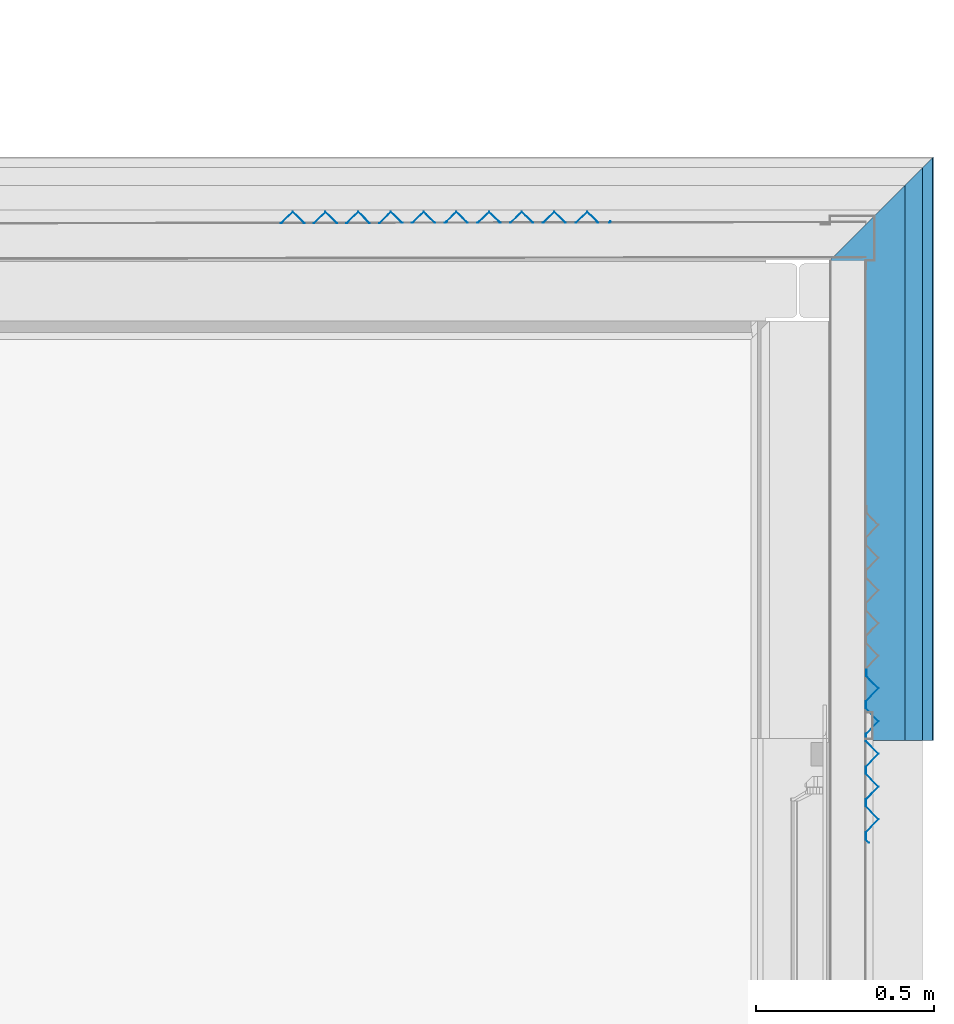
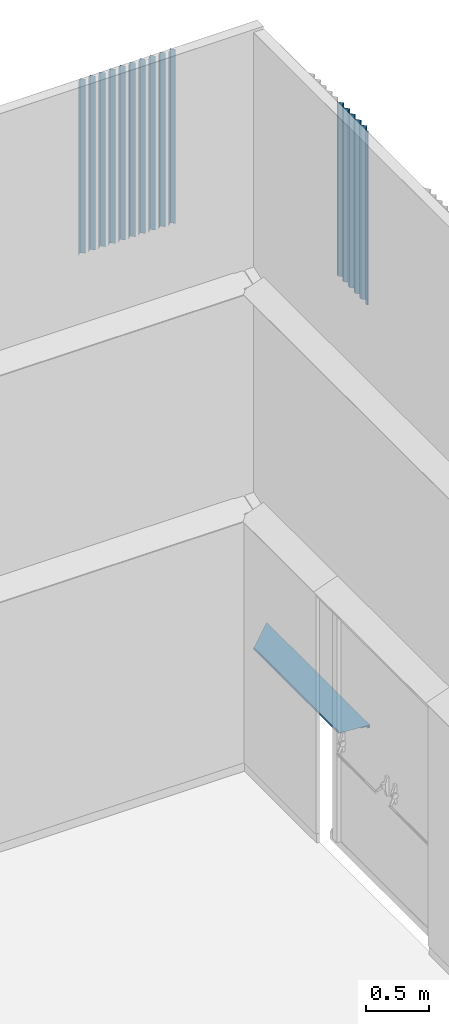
# One storey, part 112 of 338: 5 building element parts, 3 elements without a shape of their own.
"""IFC2X3 building model written with IfcOpenShell, lengths in millimetres."""

import ifcopenshell
import ifcopenshell.guid

model = None  # the IFC model being written
_history = None  # IfcOwnerHistory: only IFC2X3 demands one
_inside = {}  # id of a spatial element -> (the spatial element, [elements in it])
_under = {}  # id of a project, library or spatial element -> (it, [spatial elements below it])
_declared = {}  # id of a project -> (the project, [libraries it declares])
_typed = {}  # id of a type object -> (the type object, [elements of that type])
_made_of = {}  # id of a material, layer set ... -> (it, [elements and type objects made of it])


def new_model(schema):
    """Start an empty IFC model of exactly this schema.

    Asked for "IFC4X3", IfcOpenShell would pick the latest addendum, in which some entities
    have other attributes; the version numbers below select the first issue.
    IFC2X3 requires an IfcOwnerHistory on every rooted entity: one is made here for all.
    """
    global model, _history
    if schema == "IFC4X3":
        model = ifcopenshell.file(schema_version=(4, 3, 0, 0))
    else:
        model = ifcopenshell.file(schema=schema)
    _inside.clear()
    _under.clear()
    _declared.clear()
    _typed.clear()
    _made_of.clear()
    _history = None
    if model.schema == "IFC2X3":
        org = make("IfcOrganization", Name="unknown")
        user = make(
            "IfcPersonAndOrganization",
            ThePerson=make("IfcPerson", FamilyName="unknown"),
            TheOrganization=org,
        )
        app = make(
            "IfcApplication",
            ApplicationDeveloper=org,
            Version="unknown",
            ApplicationFullName="unknown",
            ApplicationIdentifier="unknown",
        )
        _history = make(
            "IfcOwnerHistory",
            OwningUser=user,
            OwningApplication=app,
            ChangeAction="ADDED",
            CreationDate=0,
        )
    return model


def make(cls, **values):
    """One entity of the class cls with the attributes given. An attribute that is None is left unset."""
    return model.create_entity(
        cls, **{name: value for name, value in values.items() if value is not None}
    )


def entity(cls, *values):
    """Any entity or typed value of the class cls, its attributes in the order of the schema. None: left unset."""
    e = model.create_entity(cls)
    for i, value in enumerate(values):
        if value is not None:
            e[i] = value
    return e


def rooted(cls, **values):
    """An entity with a GlobalId (a new one), such as an element, a storey or a relation."""
    return make(cls, GlobalId=ifcopenshell.guid.new(), OwnerHistory=_history, **values)


def si_unit(unit_type, name, prefix=None):
    """IfcSIUnit, for example si_unit("LENGTHUNIT", "METRE", prefix="MILLI")."""
    return make("IfcSIUnit", UnitType=unit_type, Prefix=prefix, Name=name)


def converted_unit(unit_type, name, factor, base, dimensions=None, offset=None):
    """IfcConversionBasedUnit, such as the inch: factor (a typed value) times the base unit."""
    return make(
        "IfcConversionBasedUnit"
        if offset is None
        else "IfcConversionBasedUnitWithOffset",
        ConversionOffset=offset,
        Dimensions=None
        if dimensions is None
        else entity("IfcDimensionalExponents", *dimensions),
        UnitType=unit_type,
        Name=name,
        ConversionFactor=make(
            "IfcMeasureWithUnit", ValueComponent=factor, UnitComponent=base
        ),
    )


def derived_unit(unit_type, elements):
    """IfcDerivedUnit: a product of units, each with its exponent."""
    return make(
        "IfcDerivedUnit",
        Elements=[
            make("IfcDerivedUnitElement", Unit=unit, Exponent=power)
            for unit, power in elements
        ],
        UnitType=unit_type,
    )


def money_unit(currency):
    """IfcMonetaryUnit."""
    return make("IfcMonetaryUnit", Currency=currency)


def assignment(units):
    """IfcUnitAssignment: the units of a project."""
    return None if units is None else make("IfcUnitAssignment", Units=units)


def point(xyz):
    """IfcCartesianPoint."""
    return None if xyz is None else make("IfcCartesianPoint", Coordinates=xyz)


def direction(xyz):
    """IfcDirection."""
    return None if xyz is None else make("IfcDirection", DirectionRatios=xyz)


def frame(location, z_axis=None, x_axis=None):
    """IfcAxis2Placement3D, a coordinate frame: its origin and axes. An axis left out is left unset."""
    return make(
        "IfcAxis2Placement3D",
        Location=point(location),
        Axis=direction(z_axis),
        RefDirection=direction(x_axis),
    )


def origin_with_axes():
    """The frame at (0, 0, 0) with the z axis (0, 0, 1) and the x axis (1, 0, 0) written out."""
    return frame((0.0, 0.0, 0.0), z_axis=(0.0, 0.0, 1.0), x_axis=(1.0, 0.0, 0.0))


def place(relative_to, where):
    """IfcLocalPlacement: puts the frame where relative to a parent placement (None: the world)."""
    return make(
        "IfcLocalPlacement", PlacementRelTo=relative_to, RelativePlacement=where
    )


def context(
    kind, dimensions, precision=None, world=None, true_north=None, identifier=None
):
    """IfcGeometricRepresentationContext, for example the 3D "Model" context."""
    return make(
        "IfcGeometricRepresentationContext",
        ContextIdentifier=identifier,
        ContextType=kind,
        CoordinateSpaceDimension=dimensions,
        Precision=precision,
        WorldCoordinateSystem=world,
        TrueNorth=true_north,
    )


def subcontext(parent, identifier, kind, view, scale=None):
    """IfcGeometricRepresentationSubContext, for example "Body" below "Model"."""
    return make(
        "IfcGeometricRepresentationSubContext",
        ContextIdentifier=identifier,
        ContextType=kind,
        ParentContext=parent,
        TargetScale=scale,
        TargetView=view,
    )


def project(units=None, contexts=None):
    """IfcProject with its units and contexts."""
    return rooted(
        "IfcProject",
        Name="project",
        RepresentationContexts=contexts,
        UnitsInContext=assignment(units),
    )


def spatial(cls, under=None, at=None, **own):
    """A site, building, storey or space (cls), placed at a placement, below another one or the project."""
    s = rooted(cls, ObjectPlacement=at, **own)
    if under is not None:
        _under.setdefault(under.id(), (under, []))[1].append(s)
    return s


def faces_of(points, faces, orient=None, outer=None):
    """IfcFace entities. A face is a list of loops; a loop is a list of indices into points, from 0.

    orient and outer hold one flag for each loop. By default every Orientation is true, the
    first loop of a face is its IfcFaceOuterBound and the others are IfcFaceBound.
    """
    made = []
    for i, loops in enumerate(faces):
        bounds = []
        for j, loop in enumerate(loops):
            is_outer = j == 0 if outer is None else outer[i][j]
            bounds.append(
                make(
                    "IfcFaceOuterBound" if is_outer else "IfcFaceBound",
                    Bound=make("IfcPolyLoop", Polygon=[points[k] for k in loop]),
                    Orientation=True if orient is None else orient[i][j],
                )
            )
        made.append(make("IfcFace", Bounds=bounds))
    return made


def faceted_brep(points, faces, orient=None, outer=None, voids=None):
    """IfcFacetedBrep: a solid bounded by flat faces; with voids (closed shells), ...WithVoids."""
    shared = [point(p) for p in points]
    hull = make("IfcClosedShell", CfsFaces=faces_of(shared, faces, orient, outer))
    if voids is None:
        return make("IfcFacetedBrep", Outer=hull)
    return make(
        "IfcFacetedBrepWithVoids",
        Outer=hull,
        Voids=[
            make(cls, CfsFaces=faces_of(shared, fs, o, b)) for cls, fs, o, b in voids
        ],
    )


def shape(context_of_items, identifier, shape_type, items):
    """IfcShapeRepresentation: the items that make up one representation, for example the "Body"."""
    return make(
        "IfcShapeRepresentation",
        ContextOfItems=context_of_items,
        RepresentationIdentifier=identifier,
        RepresentationType=shape_type,
        Items=items,
    )


def material(Name=None, Category=None):
    """IfcMaterial."""
    return make("IfcMaterial", Name=Name, Category=Category)


def made_of(thing, what):
    """Note that an element or type object is made of a material, layer set ...; save() writes the relation."""
    if what is not None:
        _made_of.setdefault(what.id(), (what, []))[1].append(thing)
    return thing


def type_object(cls, material=None, **own):
    """A type object (cls), such as IfcWallType, which elements share."""
    return made_of(rooted(cls, **own), material)


def element(
    cls,
    number,
    at=None,
    inside=None,
    cuts=None,
    type_object=None,
    material=None,
    context=None,
    identifier="Body",
    shape_type=None,
    held_by="IfcProductDefinitionShape",
    body=None,
    shapes=None,
    **own,
):
    """One element of the class cls, such as IfcWall. Its Tag is "e" and its number.

    at: its placement. inside: the storey or other place that contains it. cuts: it is an
    opening in that element (IfcRelVoidsElement). A single representation is given by context,
    identifier, shape_type and body (its items); several are given by shapes. held_by: the class
    of the entity that holds the representations. save() writes the other relations.
    """
    e = rooted(cls, Tag="e%d" % number, ObjectPlacement=at, **own)
    if body is not None:
        shapes = [shape(context, identifier, shape_type, body)]
    if shapes is not None:
        e.Representation = make(held_by, Representations=shapes)
    if inside is not None:
        _inside.setdefault(inside.id(), (inside, []))[1].append(e)
    if cuts is not None:
        rooted(
            "IfcRelVoidsElement", RelatingBuildingElement=cuts, RelatedOpeningElement=e
        )
    if type_object is not None:
        _typed.setdefault(type_object.id(), (type_object, []))[1].append(e)
    return made_of(e, material)


def aggregate(whole, parts):
    """IfcRelAggregates: a whole, such as a stair, and the parts it consists of."""
    return rooted("IfcRelAggregates", RelatingObject=whole, RelatedObjects=parts)


def save(model, path):
    """Write the relations noted so far, then the file.

    IfcRelAggregates (storeys below a building ...), IfcRelContainedInSpatialStructure (elements
    in a storey), IfcRelDefinesByType, IfcRelAssociatesMaterial and IfcRelDeclares: one each for
    every whole, place, type object, material and project.
    """
    for whole, parts in _under.values():
        aggregate(whole, parts)
    for where, things in _inside.values():
        rooted(
            "IfcRelContainedInSpatialStructure",
            RelatedElements=things,
            RelatingStructure=where,
        )
    for kind, things in _typed.values():
        rooted("IfcRelDefinesByType", RelatedObjects=things, RelatingType=kind)
    for what, things in _made_of.values():
        rooted("IfcRelAssociatesMaterial", RelatedObjects=things, RelatingMaterial=what)
    for by, libraries in _declared.values():
        rooted("IfcRelDeclares", RelatingContext=by, RelatedDefinitions=libraries)
    model.write(path)


model = new_model("IFC2X3")

# Units and contexts
model_context = context("Model", 3, precision=0.01, world=origin_with_axes(), true_north=direction((0.0, 1.0)))
plan_context = context("Plan", 3, precision=0.01, world=origin_with_axes(), true_north=direction((0.0, 1.0)))
body_context = subcontext(model_context, "Body", "Model", "MODEL_VIEW")
ifc_project = project(units=[si_unit("LENGTHUNIT", "METRE", prefix="MILLI"), si_unit("AREAUNIT", "SQUARE_METRE"), si_unit("VOLUMEUNIT", "CUBIC_METRE"), converted_unit("PLANEANGLEUNIT", "DEGREE", entity("IfcPlaneAngleMeasure", 0.0174532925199), si_unit("PLANEANGLEUNIT", "RADIAN"), dimensions=[0, 0, 0, 0, 0, 0, 0]), money_unit("EUR"), converted_unit("TIMEUNIT", "Year", entity("IfcTimeMeasure", 31556926.0), si_unit("TIMEUNIT", "SECOND"), dimensions=[0, 0, 1, 0, 0, 0, 0]), si_unit("MASSUNIT", "GRAM", prefix="KILO"), si_unit("THERMODYNAMICTEMPERATUREUNIT", "DEGREE_CELSIUS"), si_unit("LUMINOUSINTENSITYUNIT", "LUMEN"), si_unit("ENERGYUNIT", "JOULE", prefix="MEGA"), derived_unit("THERMALCONDUCTANCEUNIT", [(si_unit("POWERUNIT", "WATT"), 1), (si_unit("LENGTHUNIT", "METRE"), -1), (si_unit("THERMODYNAMICTEMPERATUREUNIT", "KELVIN"), -1)]), derived_unit("SPECIFICHEATCAPACITYUNIT", [(si_unit("ENERGYUNIT", "JOULE"), 1), (si_unit("MASSUNIT", "GRAM", prefix="KILO"), -1), (si_unit("THERMODYNAMICTEMPERATUREUNIT", "KELVIN"), -1)]), derived_unit("MASSDENSITYUNIT", [(si_unit("MASSUNIT", "GRAM", prefix="KILO"), 1), (si_unit("VOLUMEUNIT", "CUBIC_METRE"), -1)])], contexts=[model_context, plan_context])

# Site, building, storey
site_placement = place(None, origin_with_axes())
site = spatial("IfcSite", under=ifc_project, at=site_placement, Name="Fortuinstraat Woensdrecht", CompositionType="ELEMENT")
building_placement = place(site_placement, origin_with_axes())
building = spatial("IfcBuilding", under=site, at=building_placement, Name="IKC Fortuna", CompositionType="ELEMENT")
storey_placement = place(building_placement, origin_with_axes())
storey = spatial("IfcBuildingStorey", under=building, at=storey_placement, Name="00 begane grond", CompositionType="ELEMENT", Elevation=0.0)

# Beam, building element parts
beam_type = type_object("IfcBeamType", Name="41 Waterslag SW - MW 290 x 65", PredefinedType="BEAM")
beam_placement = place(storey_placement, frame((59433.4308144, 35496.2966283, 1018.9295501), z_axis=(0.0, 0.0, 1.0), x_axis=(-1.0, 0.0, 0.0)))
beam = element("IfcBeam", 1, at=beam_placement, inside=storey, type_object=beam_type, Name="28_Balk_UNP203", ObjectType="BEAM")
ifc_material = material(Name="Metaal - Aluminium")
building_element_part_1_placement = place(beam_placement, origin_with_axes())
building_element_part_1 = element("IfcBuildingElementPart", 2, at=building_element_part_1_placement, material=ifc_material, Name="Metaal - Aluminium", context=body_context, shape_type="Brep", body=[
    faceted_brep([(0.0, 0.0, -0.00320269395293), (0.00375728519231, 0.00375728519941, -21.1201540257), (0.00375728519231, 1350.98396266, -21.1201540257), (0.0, 1350.98396266, -0.00320269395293), (-288.997373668, -288.997373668, -64.0514212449), (-289.001821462, -289.001821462, -39.0540858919), (-0.999999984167, -0.999999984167, -0.0033806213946), (-0.996409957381, -0.996409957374, -20.1802948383), (-290.001988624, -290.001988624, -38.1142266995), (-289.997195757, -289.997195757, -65.0514212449), (-269.997199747, -269.997199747, -65.0443041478), (-269.997377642, -269.997377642, -64.0444820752), (-289.001821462, 1350.98396266, -39.0540858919), (-0.996409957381, 1350.98396266, -20.1802948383), (-0.999999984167, 1350.98396266, -0.0033806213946), (-288.997373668, 1350.98396266, -64.0514212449), (-269.997377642, 1350.98396266, -64.0444820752), (-269.997199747, 1350.98396266, -65.0443041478), (-289.997195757, 1350.98396266, -65.0514212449), (-290.001988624, 1350.98396266, -38.1142266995)], [[[0, 1, 2, 3]], [[4, 5, 1, 0, 6, 7, 8, 9, 10, 11]], [[5, 12, 2, 1]], [[13, 14, 3, 2, 12, 15, 16, 17, 18, 19]], [[14, 6, 0, 3]], [[5, 4, 15, 12]], [[7, 6, 14, 13]], [[8, 7, 13, 19]], [[9, 8, 19, 18]], [[9, 18, 17, 10]], [[11, 10, 17, 16]], [[4, 11, 16, 15]]]),
])
building_element_part_2_placement = place(beam_placement, origin_with_axes())
building_element_part_2 = element("IfcBuildingElementPart", 3, at=building_element_part_2_placement, material=ifc_material, Name="Metaal - Aluminium", context=body_context, shape_type="Brep", body=[
    faceted_brep([(-287.321068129, 1350.98396266, -62.942550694), (-259.995211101, 1350.98396266, -44.989324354), (-259.995211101, -259.995211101, -44.989324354), (-287.321068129, -287.321068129, -62.942550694), (-287.870165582, 1350.98396266, -62.1067923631), (-260.294323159, 1350.98396266, -43.989324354), (-209.995211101, 1350.98396266, -43.989324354), (-209.995211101, 1350.98396266, -44.989324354), (-209.995211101, -209.995211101, -44.989324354), (-209.995211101, -209.995211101, -43.989324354), (-260.294323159, -260.294323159, -43.989324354), (-287.870165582, -287.870165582, -62.1067923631)], [[[0, 1, 2, 3]], [[0, 4, 5, 6, 7, 1]], [[1, 7, 8, 2]], [[3, 2, 8, 9, 10, 11]], [[4, 0, 3, 11]], [[5, 4, 11, 10]], [[6, 5, 10, 9]], [[7, 6, 9, 8]]]),
])
aggregate(beam, [building_element_part_1, building_element_part_2])

# Proxy, building element parts
building_element_proxy_type = type_object("IfcBuildingElementProxyType", Name="21 Sandwich custom pyramid 946 x 37", PredefinedType="NOTDEFINED")
proxy_1_placement = place(storey_placement, frame((57869.6588228, 35596.2971073, 5289.99999237), z_axis=(0.0, 0.0, 1.0), x_axis=(1.0, 0.0, 0.0)))
proxy_1 = element("IfcBuildingElementProxy", 4, at=proxy_1_placement, inside=storey, type_object=building_element_proxy_type, Name="41_Generieke bekleding & afwerking buiten_sandwich custom pyramid")
building_element_part_3_placement = place(proxy_1_placement, origin_with_axes())
building_element_part_3 = element("IfcBuildingElementPart", 5, at=building_element_part_3_placement, material=ifc_material, Name="Metaal - Aluminium", context=body_context, shape_type="Brep", body=[
    faceted_brep([(83.5202122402, 4.35534788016, 1690.00000566), (85.239076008, 4.3578946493, 1690.00000566), (52.0000026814, 36.6736482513, 1690.00000566), (18.6594701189, 4.25924640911, 1690.00000566), (20.3835680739, 4.26180093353, 1690.00000566), (52.0000026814, 35.0000001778, 1690.00000566), (85.239076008, 4.3578946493, 0.0), (83.5202122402, 4.35534788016, 0.0), (52.0000026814, 36.6736482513, 0.0), (18.6594701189, 4.25924640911, 0.0), (20.3835680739, 4.26180093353, 0.0), (52.0000026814, 35.0000001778, 0.0)], [[[0, 1, 2, 3, 4, 5]], [[6, 1, 0, 7]], [[1, 6, 8, 2]], [[9, 3, 2, 8]], [[10, 4, 3, 9]], [[4, 10, 11, 5]], [[7, 0, 5, 11]], [[6, 7, 11, 10, 9, 8]]]),
    faceted_brep([(175.380223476, 4.49145304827, 1690.00000566), (177.099074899, 4.49399979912, 1690.00000566), (143.999995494, 36.6736482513, 1690.00000566), (110.799889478, 4.3957670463, 1690.00000566), (112.523987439, 4.39832157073, 1690.00000566), (143.999995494, 35.0000001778, 1690.00000566), (177.099074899, 4.49399979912, 0.0), (175.380223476, 4.49145304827, 0.0), (143.999995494, 36.6736482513, 0.0), (110.799889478, 4.3957670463, 0.0), (112.523987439, 4.39832157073, 0.0), (143.999995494, 35.0000001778, 0.0)], [[[0, 1, 2, 3, 4, 5]], [[6, 1, 0, 7]], [[1, 6, 8, 2]], [[9, 3, 2, 8]], [[10, 4, 3, 9]], [[4, 10, 11, 5]], [[7, 0, 5, 11]], [[6, 7, 11, 10, 9, 8]]]),
    faceted_brep([(267.240224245, 4.62755820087, 1690.00000566), (268.95908787, 4.6301049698, 1690.00000566), (236.000002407, 36.6736482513, 1690.00000566), (202.940304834, 4.53228767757, 1690.00000566), (204.664403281, 4.53484220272, 1690.00000566), (236.000002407, 35.0000001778, 1690.00000566), (268.95908787, 4.6301049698, 0.0), (267.240224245, 4.62755820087, 0.0), (236.000002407, 36.6736482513, 0.0), (202.940304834, 4.53228767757, 0.0), (204.664403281, 4.53484220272, 0.0), (236.000002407, 35.0000001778, 0.0)], [[[0, 1, 2, 3, 4, 5]], [[6, 1, 0, 7]], [[1, 6, 8, 2]], [[9, 3, 2, 8]], [[10, 4, 3, 9]], [[4, 10, 11, 5]], [[7, 0, 5, 11]], [[6, 7, 11, 10, 9, 8]]]),
    faceted_brep([(359.100235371, 4.76366336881, 1690.00000566), (360.819086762, 4.76621011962, 1690.00000566), (327.99999522, 36.6736482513, 1690.00000566), (295.08073166, 4.66880832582, 1690.00000566), (296.804829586, 4.6713628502, 1690.00000566), (327.99999522, 35.0000001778, 1690.00000566), (360.819086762, 4.76621011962, 0.0), (359.100235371, 4.76366336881, 0.0), (327.99999522, 36.6736482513, 0.0), (295.08073166, 4.66880832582, 0.0), (296.804829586, 4.6713628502, 0.0), (327.99999522, 35.0000001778, 0.0)], [[[0, 1, 2, 3, 4, 5]], [[6, 1, 0, 7]], [[1, 6, 8, 2]], [[9, 3, 2, 8]], [[10, 4, 3, 9]], [[4, 10, 11, 5]], [[7, 0, 5, 11]], [[6, 7, 11, 10, 9, 8]]]),
    faceted_brep([(450.96023625, 4.89976852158, 1690.00000566), (452.679099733, 4.9023152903, 1690.00000566), (420.000002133, 36.6736482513, 1690.00000566), (387.221147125, 4.80532895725, 1690.00000566), (388.945257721, 4.8078835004, 1690.00000566), (420.000002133, 35.0000001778, 1690.00000566), (452.679099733, 4.9023152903, 0.0), (450.96023625, 4.89976852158, 0.0), (420.000002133, 36.6736482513, 0.0), (387.221147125, 4.80532895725, 0.0), (388.945257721, 4.8078835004, 0.0), (420.000002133, 35.0000001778, 0.0)], [[[0, 1, 2, 3, 4, 5]], [[6, 1, 0, 7]], [[1, 6, 8, 2]], [[9, 3, 2, 8]], [[10, 4, 3, 9]], [[4, 10, 11, 5]], [[7, 0, 5, 11]], [[6, 7, 11, 10, 9, 8]]]),
    faceted_brep([(481.085665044, 4.94440411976, 1690.00000566), (482.809762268, 4.9469586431, 1690.00000566), (486.309372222, 8.34935896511, 1690.00000566), (485.472879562, 9.20975302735, 1690.00000566), (482.809762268, 4.9469586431, 0.0), (481.085665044, 4.94440411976, 0.0), (486.309372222, 8.34935896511, 0.0), (485.472879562, 9.20975302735, 0.0)], [[[0, 1, 2, 3]], [[4, 1, 0, 5]], [[1, 4, 6, 2]], [[2, 6, 7, 3]], [[5, 0, 3, 7]], [[4, 5, 7, 6]]]),
])
building_element_part_4_placement = place(proxy_1_placement, origin_with_axes())
building_element_part_4 = element("IfcBuildingElementPart", 6, at=building_element_part_4_placement, material=ifc_material, Name="Metaal - Aluminium", context=body_context, shape_type="Brep", body=[
    faceted_brep([(542.82024421, 5.03587368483, 1690.00000566), (544.539095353, 5.03842043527, 1690.00000566), (512.0, 36.6736520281, 1690.00000566), (479.361574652, 4.94184960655, 1690.00000566), (481.085668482, 4.94440412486, 1690.00000566), (485.472879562, 9.20975302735, 1690.00000566), (512.0, 35.0, 1690.00000566), (544.539095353, 5.03842043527, 0.0), (542.82024421, 5.03587368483, 0.0), (512.0, 36.6736520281, 0.0), (479.361574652, 4.94184960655, 0.0), (481.085668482, 4.94440412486, 0.0), (485.472879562, 9.20975302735, 0.0), (512.0, 35.0, 0.0)], [[[0, 1, 2, 3, 4, 5, 6]], [[7, 1, 0, 8]], [[1, 7, 9, 2]], [[10, 3, 2, 9]], [[11, 4, 3, 10]], [[4, 11, 12, 5]], [[5, 12, 13, 6]], [[8, 0, 6, 13]], [[7, 8, 13, 12, 11, 10, 9]]]),
    faceted_brep([(634.68025033, 5.17197884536, 1690.00000566), (636.399101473, 5.1745255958, 1690.00000566), (604.0, 36.6736520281, 1690.00000566), (571.501995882, 5.07837024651, 1690.00000566), (573.22609405, 5.08092477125, 1690.00000566), (604.0, 35.0, 1690.00000566), (636.399101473, 5.1745255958, 0.0), (634.68025033, 5.17197884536, 0.0), (604.0, 36.6736520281, 0.0), (571.501995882, 5.07837024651, 0.0), (573.22609405, 5.08092477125, 0.0), (604.0, 35.0, 0.0)], [[[0, 1, 2, 3, 4, 5]], [[6, 1, 0, 7]], [[1, 6, 8, 2]], [[9, 3, 2, 8]], [[10, 4, 3, 9]], [[4, 10, 11, 5]], [[7, 0, 5, 11]], [[6, 7, 11, 10, 9, 8]]]),
    faceted_brep([(726.540256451, 5.3080840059, 1690.00000566), (728.259107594, 5.31063075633, 1690.00000566), (696.0, 36.6736520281, 1690.00000566), (663.642417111, 5.21489088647, 1690.00000566), (665.36651528, 5.21744541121, 1690.00000566), (696.0, 35.0, 1690.00000566), (728.259107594, 5.31063075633, 0.0), (726.540256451, 5.3080840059, 0.0), (696.0, 36.6736520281, 0.0), (663.642417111, 5.21489088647, 0.0), (665.36651528, 5.21744541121, 0.0), (696.0, 35.0, 0.0)], [[[0, 1, 2, 3, 4, 5]], [[6, 1, 0, 7]], [[1, 6, 8, 2]], [[9, 3, 2, 8]], [[10, 4, 3, 9]], [[4, 10, 11, 5]], [[7, 0, 5, 11]], [[6, 7, 11, 10, 9, 8]]]),
    faceted_brep([(818.400262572, 5.44418916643, 1690.00000566), (820.119113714, 5.44673591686, 1690.00000566), (788.0, 36.6736520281, 1690.00000566), (755.782838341, 5.35141152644, 1690.00000566), (757.50693651, 5.35396605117, 1690.00000566), (788.0, 35.0, 1690.00000566), (820.119113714, 5.44673591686, 0.0), (818.400262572, 5.44418916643, 0.0), (788.0, 36.6736520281, 0.0), (755.782838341, 5.35141152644, 0.0), (757.50693651, 5.35396605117, 0.0), (788.0, 35.0, 0.0)], [[[0, 1, 2, 3, 4, 5]], [[6, 1, 0, 7]], [[1, 6, 8, 2]], [[9, 3, 2, 8]], [[10, 4, 3, 9]], [[4, 10, 11, 5]], [[7, 0, 5, 11]], [[6, 7, 11, 10, 9, 8]]]),
    faceted_brep([(910.260268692, 5.58029432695, 1690.00000566), (911.979119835, 5.58284107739, 1690.00000566), (880.0, 36.6736520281, 1690.00000566), (847.923259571, 5.4879321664, 1690.00000566), (849.647357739, 5.49048669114, 1690.00000566), (880.0, 35.0, 1690.00000566), (911.979119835, 5.58284107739, 0.0), (910.260268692, 5.58029432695, 0.0), (880.0, 36.6736520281, 0.0), (847.923259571, 5.4879321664, 0.0), (849.647357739, 5.49048669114, 0.0), (880.0, 35.0, 0.0)], [[[0, 1, 2, 3, 4, 5]], [[6, 1, 0, 7]], [[1, 6, 8, 2]], [[9, 3, 2, 8]], [[10, 4, 3, 9]], [[4, 10, 11, 5]], [[7, 0, 5, 11]], [[6, 7, 11, 10, 9, 8]]]),
    faceted_brep([(941.787778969, 5.62700733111, 1690.00000566), (943.511877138, 5.62956185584, 1690.00000566), (946.309378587, 8.34935493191, 1690.00000566), (945.472884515, 9.20974883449, 1690.00000566), (943.511877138, 5.62956185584, 0.0), (941.787778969, 5.62700733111, 0.0), (946.309378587, 8.34935493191, 0.0), (945.472884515, 9.20974883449, 0.0)], [[[0, 1, 2, 3]], [[4, 1, 0, 5]], [[1, 4, 6, 2]], [[2, 6, 7, 3]], [[5, 0, 3, 7]], [[4, 5, 7, 6]]]),
])
aggregate(proxy_1, [building_element_part_3, building_element_part_4])

# Proxy, building element part
proxy_2_placement = place(storey_placement, frame((59533.4270571, 34803.6060069, 5289.99999237), z_axis=(0.0, 0.0, 1.0), x_axis=(0.0, -1.0, 0.0)))
proxy_2 = element("IfcBuildingElementProxy", 7, at=proxy_2_placement, inside=storey, type_object=building_element_proxy_type, Name="41_Generieke bekleding & afwerking buiten_sandwich custom pyramid")
building_element_part_5_placement = place(proxy_2_placement, origin_with_axes())
building_element_part_5 = element("IfcBuildingElementPart", 8, at=building_element_part_5_placement, material=ifc_material, Name="Metaal - Aluminium", context=body_context, shape_type="Brep", body=[
    faceted_brep([(460.0, 1.2, 0.0), (477.234285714, 1.2, 0.0), (477.234285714, 1.2, 1690.00000566), (460.0, 1.2, 1690.00000566), (460.0, 2.4, 0.0), (476.747100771, 2.4, 0.0), (512.0, 36.6736520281, 0.0), (548.487184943, 1.2, 0.0), (567.512815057, 1.2, 0.0), (604.0, 36.6736520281, 0.0), (640.487184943, 1.2, 0.0), (659.512815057, 1.2, 0.0), (696.0, 36.6736520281, 0.0), (732.487184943, 1.2, 0.0), (751.512815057, 1.2, 0.0), (788.0, 36.6736520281, 0.0), (824.487184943, 1.2, 0.0), (843.512815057, 1.2, 0.0), (880.0, 36.6736520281, 0.0), (916.487184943, 1.2, 0.0), (937.234285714, 1.2, 0.0), (945.472884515, 9.20974883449, 0.0), (946.309378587, 8.34935493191, 0.0), (937.721470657, 0.0, 0.0), (916.0, 0.0, 0.0), (880.0, 35.0, 0.0), (844.0, 0.0, 0.0), (824.0, 0.0, 0.0), (788.0, 35.0, 0.0), (752.0, 0.0, 0.0), (732.0, 0.0, 0.0), (696.0, 35.0, 0.0), (660.0, 0.0, 0.0), (640.0, 0.0, 0.0), (604.0, 35.0, 0.0), (568.0, 0.0, 0.0), (548.0, 0.0, 0.0), (512.0, 35.0, 0.0), (485.472879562, 9.20975302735, 0.0), (485.472879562, 9.20975302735, 1690.00000566), (512.0, 35.0, 1690.00000566), (548.0, 0.0, 1690.00000566), (568.0, 0.0, 1690.00000566), (604.0, 35.0, 1690.00000566), (640.0, 0.0, 1690.00000566), (660.0, 0.0, 1690.00000566), (696.0, 35.0, 1690.00000566), (732.0, 0.0, 1690.00000566), (752.0, 0.0, 1690.00000566), (788.0, 35.0, 1690.00000566), (824.0, 0.0, 1690.00000566), (844.0, 0.0, 1690.00000566), (880.0, 35.0, 1690.00000566), (916.0, 0.0, 1690.00000566), (937.721470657, 0.0, 1690.00000566), (946.309378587, 8.34935493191, 1690.00000566), (945.472884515, 9.20974883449, 1690.00000566), (937.234285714, 1.2, 1690.00000566), (916.487184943, 1.2, 1690.00000566), (880.0, 36.6736520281, 1690.00000566), (843.512815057, 1.2, 1690.00000566), (824.487184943, 1.2, 1690.00000566), (788.0, 36.6736520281, 1690.00000566), (751.512815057, 1.2, 1690.00000566), (732.487184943, 1.2, 1690.00000566), (696.0, 36.6736520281, 1690.00000566), (659.512815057, 1.2, 1690.00000566), (640.487184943, 1.2, 1690.00000566), (604.0, 36.6736520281, 1690.00000566), (567.512815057, 1.2, 1690.00000566), (548.487184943, 1.2, 1690.00000566), (512.0, 36.6736520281, 1690.00000566), (476.747100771, 2.4, 1690.00000566), (460.0, 2.4, 1690.00000566)], [[[0, 1, 2, 3]], [[0, 4, 5, 6, 7, 8, 9, 10, 11, 12, 13, 14, 15, 16, 17, 18, 19, 20, 21, 22, 23, 24, 25, 26, 27, 28, 29, 30, 31, 32, 33, 34, 35, 36, 37, 38, 1]], [[1, 38, 39, 2]], [[3, 2, 39, 40, 41, 42, 43, 44, 45, 46, 47, 48, 49, 50, 51, 52, 53, 54, 55, 56, 57, 58, 59, 60, 61, 62, 63, 64, 65, 66, 67, 68, 69, 70, 71, 72, 73]], [[4, 0, 3, 73]], [[5, 4, 73, 72]], [[6, 5, 72, 71]], [[7, 6, 71, 70]], [[8, 7, 70, 69]], [[9, 8, 69, 68]], [[10, 9, 68, 67]], [[11, 10, 67, 66]], [[12, 11, 66, 65]], [[13, 12, 65, 64]], [[14, 13, 64, 63]], [[15, 14, 63, 62]], [[16, 15, 62, 61]], [[17, 16, 61, 60]], [[18, 17, 60, 59]], [[19, 18, 59, 58]], [[20, 19, 58, 57]], [[21, 20, 57, 56]], [[22, 21, 56, 55]], [[23, 22, 55, 54]], [[24, 23, 54, 53]], [[25, 24, 53, 52]], [[26, 25, 52, 51]], [[27, 26, 51, 50]], [[28, 27, 50, 49]], [[29, 28, 49, 48]], [[30, 29, 48, 47]], [[31, 30, 47, 46]], [[32, 31, 46, 45]], [[33, 32, 45, 44]], [[34, 33, 44, 43]], [[35, 34, 43, 42]], [[36, 35, 42, 41]], [[37, 36, 41, 40]], [[38, 37, 40, 39]]]),
])
aggregate(proxy_2, [building_element_part_5])

save(model, "model.ifc")
